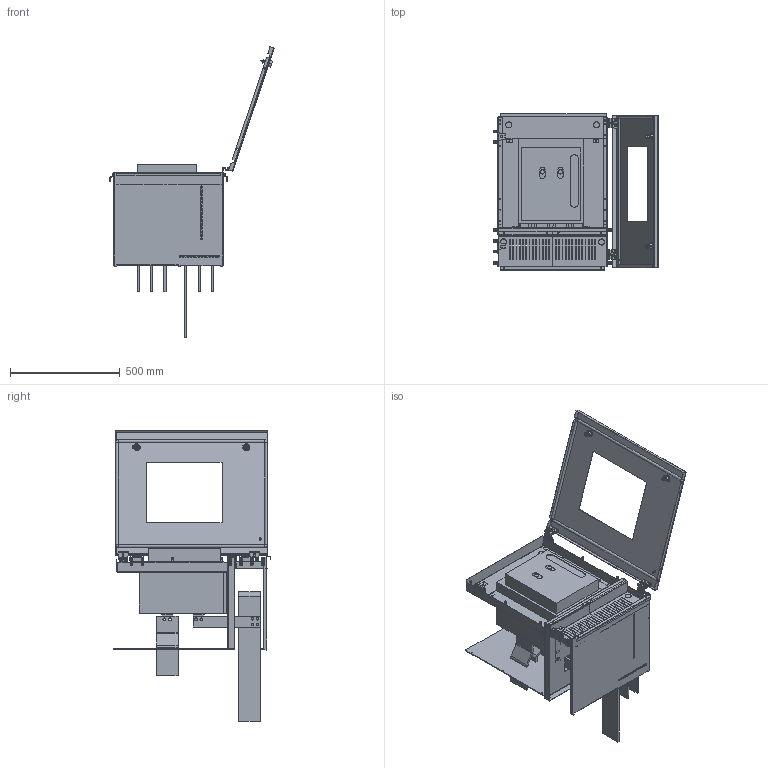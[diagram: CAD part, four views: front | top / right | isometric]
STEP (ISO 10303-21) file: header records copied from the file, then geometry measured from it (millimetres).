
FILE_DESCRIPTION(('CAx-IF Rec.Pracs.---Model Styling and Organization---1.2---2011-12-15','CAx-IF Rec.Pracs.---Geometric and Assembly Validation Properties---4.1---2014-06-16','CAx-IF Rec.Pracs.---PMI Polyline Presentation---2.0---2013-05-24'),'2;1');
FILE_NAME('R5M214IB5H61121R.stp','2021-05-05T12:50:20+03:00',(''),(''),'STEP Interface 4.4 by CT CoreTechnologie','3D_Evolution4.4 by CT CoreTechnologie','');
FILE_SCHEMA(('AUTOMOTIVE_DESIGN { 1 0 10303 214 1 1 1 1 }'));
Length unit declared in the file: millimetre
Products named in the file (33): R5M214IB5H61121R(äâóñòîðîííèé); RB.0687.00.00.1_-00; HNDOF2_-00; AC00C485; MS737-1-1(1); MS737-1-1 Z_ ªàëâ; MS737-1-1 stop_fixed; HNDOF1_-00; MS737-1-1(2); RB.1227.00.00.0_-01; HNDDR1F_-00; HNDDR2F_-00; HNDDR3F_-00; M6 x 16-DIN 7991 ISR_thread; HNDT3F_-00; HNDT1F_-00; HNDT2F_-00; RB.1450.00.00.0_-00; RB.1449.00.00.0_-00; RB.1448.00.00.0_-00; RB.1450.00.00.0_-01; RB.1226.00.00.0_-00; RB.1451.00.00.0 ÑÁ_-00 (Emax E1.2 F); RB.1451.00.01.0_-00 (HGS F); PF 7x14 MCC2.0_0700x0600; AC00C266; AC00C061_AC00C061; Ì6õ12-A5100231_straight; RB.1594.00.00.0_-00 (HND F); RB.0116.00.00.3_-00; HGN06-20 F_-00; RB.1233.00.00.0_-01; RB.1227.00.00.0_-00
Assembly tree (63 placements, depth 3):
  R5M214IB5H61121R(äâóñòîðîííèé)
    RB.0687.00.00.1_-00  x2
    HNDOF2_-00  x3
    AC00C485  x12
    MS737-1-1(1)
      MS737-1-1 Z_ ªàëâ
      MS737-1-1 stop_fixed
    HNDOF1_-00  x3
    MS737-1-1(2)
      MS737-1-1 Z_ ªàëâ
      MS737-1-1 stop_fixed
    RB.1227.00.00.0_-01
    HNDDR1F_-00
    HNDDR2F_-00
    HNDDR3F_-00
    M6 x 16-DIN 7991 ISR_thread  x11
    HNDT3F_-00
    HNDT1F_-00
    HNDT2F_-00
    RB.1450.00.00.0_-00
    RB.1449.00.00.0_-00
    RB.1448.00.00.0_-00  x2
    RB.1450.00.00.0_-01
    RB.1226.00.00.0_-00
    RB.1451.00.00.0 ÑÁ_-00 (Emax E1.2 F)
      RB.1451.00.01.0_-00 (HGS F)
      PF 7x14 MCC2.0_0700x0600
      AC00C266  x2
      AC00C061_AC00C061
      Ì6õ12-A5100231_straight
    RB.1594.00.00.0_-00 (HND F)
    RB.0116.00.00.3_-00  x2
    HGN06-20 F_-00
    RB.1233.00.00.0_-01
    RB.1227.00.00.0_-00
Bounding box: 749.38 x 717 x 1327.04 mm (x, y, z)
Surface area: 4567948.2 mm2 (no closed solid volume)
Topology: 0 solids, 79 shells, 3095 faces, 8047 edges, 5089 vertices
Faces by surface type: plane 1503, cylinder 1230, bspline 362
Entity records: 55989 total; most frequent: CARTESIAN_POINT 12670, ORIENTED_EDGE 8582, DIRECTION 8530, EDGE_CURVE 4293, VECTOR 2972, LINE 2972, VERTEX_POINT 2783, AXIS2_PLACEMENT_3D 2779
